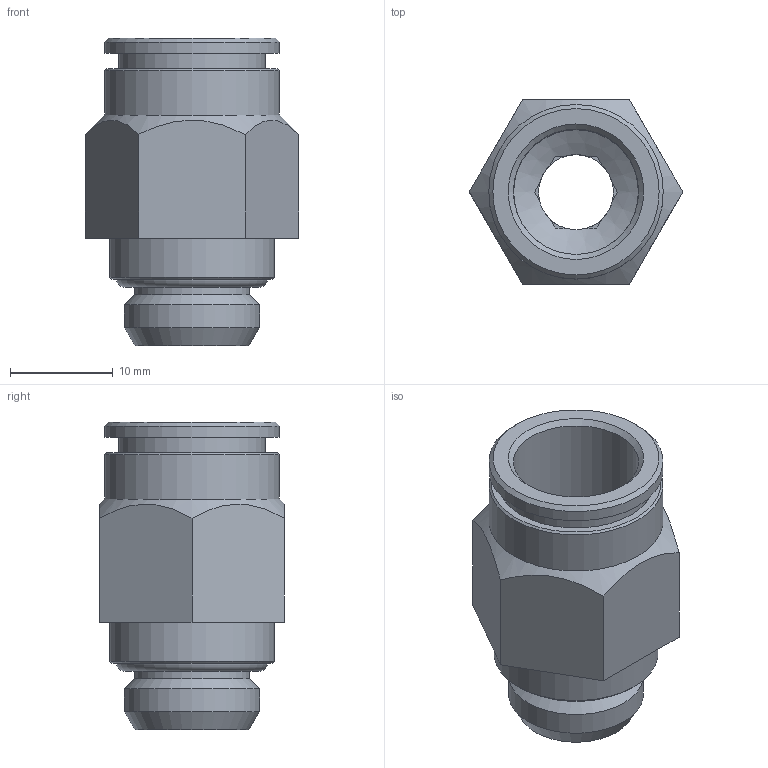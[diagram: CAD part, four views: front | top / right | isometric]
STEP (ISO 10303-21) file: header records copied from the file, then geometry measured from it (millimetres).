
FILE_DESCRIPTION(/* description */ (''),/* implementation_level */ '2;1');
FILE_NAME(/* name */ '200119ES_STX_01_12_14',/* time_stamp */ '2015-02-06T14:17:45+01:00',/* author */ (''),/* organization */ (''),/* preprocessor_version */ 'ST-DEVELOPER v14',/* originating_system */ 'HiCAD 2013 1802.4 Build 509',/* authorisation */ '');
FILE_SCHEMA (('AUTOMOTIVE_DESIGN { 1 0 10303 214 1 1 1 1 }'));
Length unit declared in the file: millimetre
Products named in the file (4): Root; OR 11.11X1.78; DR12; R200119
Assembly tree (3 placements, depth 2):
  Root
    OR 11.11X1.78
    DR12
    R200119
Bounding box: 20.78 x 18 x 30 mm (x, y, z)
Volume: 3351.9 mm3; surface area: 4260.3 mm2
Topology: 3 solids, 3 shells, 60 faces, 139 edges, 89 vertices
Faces by surface type: plane 34, cone 12, cylinder 11, torus 3
Full cylindrical faces by diameter (mm): 7.3 x1, 11.2 x1, 12.15 x1, 12.2 x1, 13.157 x1, 13.2 x1, 14.3 x1, 14.5 x1, 16 x1, 17 x2
Entity records: 2700 total; most frequent: DIRECTION 300, CARTESIAN_POINT 252, PRESENTATION_STYLE_ASSIGNMENT 219, OVER_RIDING_STYLED_ITEM 216, COLOUR_RGB 213, DRAUGHTING_PRE_DEFINED_CURVE_FONT 210, CURVE_STYLE 210, ORIENTED_EDGE 210
